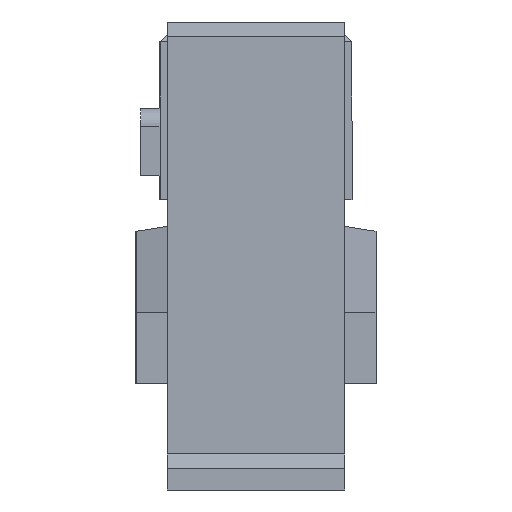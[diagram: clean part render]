
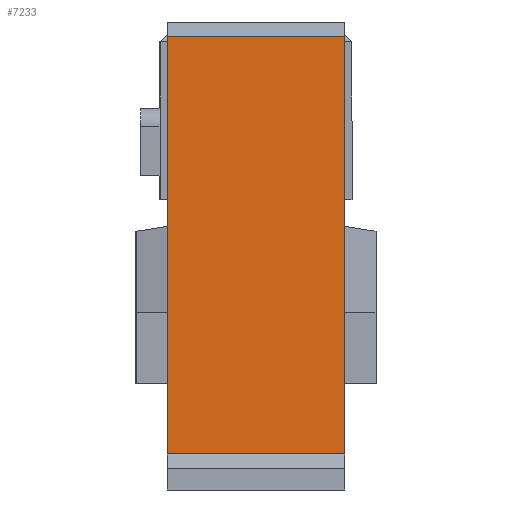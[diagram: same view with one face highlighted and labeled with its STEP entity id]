
A CAD part, left-side view. The second image highlights one B-rep face of the part: STEP entity #7233.
In plain terms, the highlighted planar face has unit normal (-1, 0, 0).
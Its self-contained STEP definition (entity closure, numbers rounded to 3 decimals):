
#332 = VERTEX_POINT ( 'NONE', #1921 ) ;
#514 = CARTESIAN_POINT ( 'NONE',  ( -17., 0.15, 0.461 ) ) ;
#599 = DIRECTION ( 'NONE',  ( 1., 0., 0. ) ) ;
#1145 = EDGE_CURVE ( 'NONE', #9142, #3957, #4666, .T. ) ;
#1294 = CARTESIAN_POINT ( 'NONE',  ( -17., 0.15, 0.461 ) ) ;
#1477 = FACE_OUTER_BOUND ( 'NONE', #10899, .T. ) ;
#1800 = VERTEX_POINT ( 'NONE', #1294 ) ;
#1921 = CARTESIAN_POINT ( 'NONE',  ( -17., 0.15, 9.161 ) ) ;
#2260 = EDGE_CURVE ( 'NONE', #332, #1800, #7455, .T. ) ;
#2458 = DIRECTION ( 'NONE',  ( 0., -1., 0. ) ) ;
#3289 = VECTOR ( 'NONE', #4602, 1000. ) ;
#3301 = ORIENTED_EDGE ( 'NONE', *, *, #2260, .F. ) ;
#3465 = EDGE_CURVE ( 'NONE', #9142, #1800, #5909, .T. ) ;
#3742 = CARTESIAN_POINT ( 'NONE',  ( -17., -0.5, 9.161 ) ) ;
#3770 = AXIS2_PLACEMENT_3D ( 'NONE', #5013, #599, #4832 ) ;
#3866 = DIRECTION ( 'NONE',  ( 0., 0., 1. ) ) ;
#3894 = VECTOR ( 'NONE', #4984, 1000. ) ;
#3957 = VERTEX_POINT ( 'NONE', #8012 ) ;
#4602 = DIRECTION ( 'NONE',  ( 0., 1., 0. ) ) ;
#4666 = LINE ( 'NONE', #8195, #5391 ) ;
#4832 = DIRECTION ( 'NONE',  ( 0., 1., 0. ) ) ;
#4984 = DIRECTION ( 'NONE',  ( 0., 0., -1. ) ) ;
#5013 = CARTESIAN_POINT ( 'NONE',  ( -17., 4.5, 0.461 ) ) ;
#5391 = VECTOR ( 'NONE', #3866, 1000. ) ;
#5909 = LINE ( 'NONE', #10336, #10632 ) ;
#7100 = EDGE_CURVE ( 'NONE', #332, #3957, #7195, .T. ) ;
#7195 = LINE ( 'NONE', #3742, #3289 ) ;
#7233 = ADVANCED_FACE ( 'NONE', ( #1477 ), #9221, .F. ) ;
#7455 = LINE ( 'NONE', #514, #3894 ) ;
#7571 = ORIENTED_EDGE ( 'NONE', *, *, #3465, .T. ) ;
#8012 = CARTESIAN_POINT ( 'NONE',  ( -17., 3.85, 9.161 ) ) ;
#8106 = CARTESIAN_POINT ( 'NONE',  ( -17., 3.85, 0.461 ) ) ;
#8195 = CARTESIAN_POINT ( 'NONE',  ( -17., 3.85, 0.461 ) ) ;
#9142 = VERTEX_POINT ( 'NONE', #8106 ) ;
#9221 = PLANE ( 'NONE',  #3770 ) ;
#10336 = CARTESIAN_POINT ( 'NONE',  ( -17., 4.5, 0.461 ) ) ;
#10632 = VECTOR ( 'NONE', #2458, 1000. ) ;
#10746 = ORIENTED_EDGE ( 'NONE', *, *, #7100, .T. ) ;
#10899 = EDGE_LOOP ( 'NONE', ( #10964, #7571, #3301, #10746 ) ) ;
#10964 = ORIENTED_EDGE ( 'NONE', *, *, #1145, .F. ) ;
